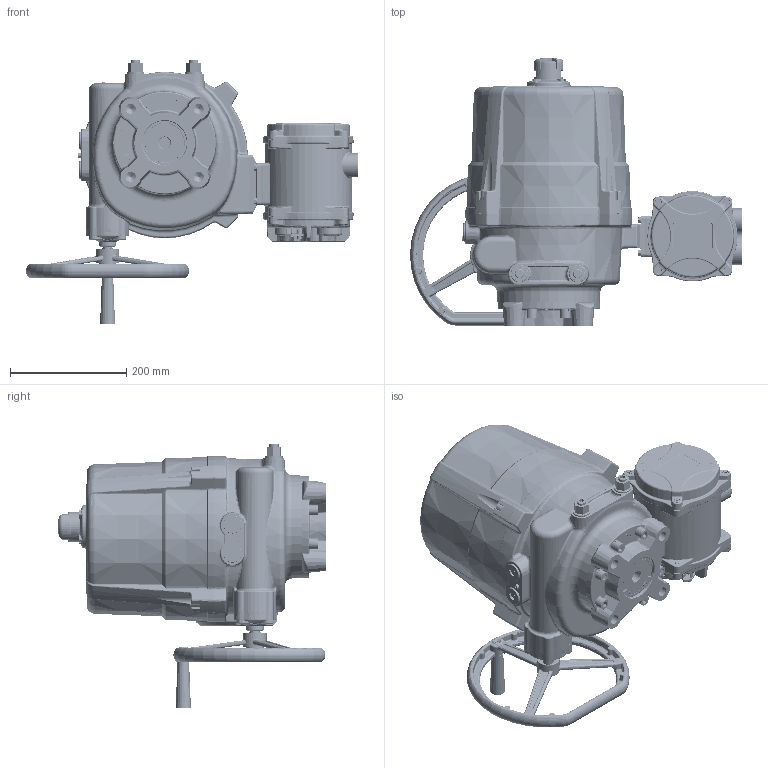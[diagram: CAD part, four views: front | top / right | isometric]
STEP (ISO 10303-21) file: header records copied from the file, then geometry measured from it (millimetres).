
FILE_DESCRIPTION (( 'STEP AP214' ), '1' );
FILE_NAME ('JYH-170Y-230Y-秷夔倰.STEP', '2024-07-24T01:43:21', ( 'Windows User' ), ( 'P R C' ), 'SwSTEP 2.0', 'SolidWorks 2015', '' );
FILE_SCHEMA (( 'AUTOMOTIVE_DESIGN' ));
Length unit declared in the file: millimetre
Products named in the file (6): 智能型控制盒实体3D外形-Y-非防爆; JYH20-72手轮标识垫圈; JYH10-62諉華梓祩; JYH10-57-3D指示柱-印字_默认<按加工>; JYH50-00軞傖妗极3D俋倛; JYH-170Y-230Y-秷夔倰
Assembly tree (5 placements, depth 2):
  JYH-170Y-230Y-秷夔倰
    JYH50-00軞傖妗极3D俋倛
    JYH10-57-3D指示柱-印字_默认<按加工>
    JYH10-62諉華梓祩
    JYH20-72手轮标识垫圈
    智能型控制盒实体3D外形-Y-非防爆
Bounding box: 570 x 460.1 x 454.27 mm (x, y, z)
Volume: 11853055.6 mm3; surface area: 1629448.8 mm2
Topology: 31 solids, 46 shells, 8763 faces, 21708 edges, 13044 vertices
Faces by surface type: bspline 3014, plane 1901, cylinder 1704, torus 1158, cone 680, sphere 306
Entity records: 450408 total; most frequent: CARTESIAN_POINT 230677, ORIENTED_EDGE 42680, DIRECTION 33437, EDGE_CURVE 21340, AXIS2_PLACEMENT_3D 13954, VERTEX_POINT 13014, EDGE_LOOP 9226, FACE_OUTER_BOUND 8763
